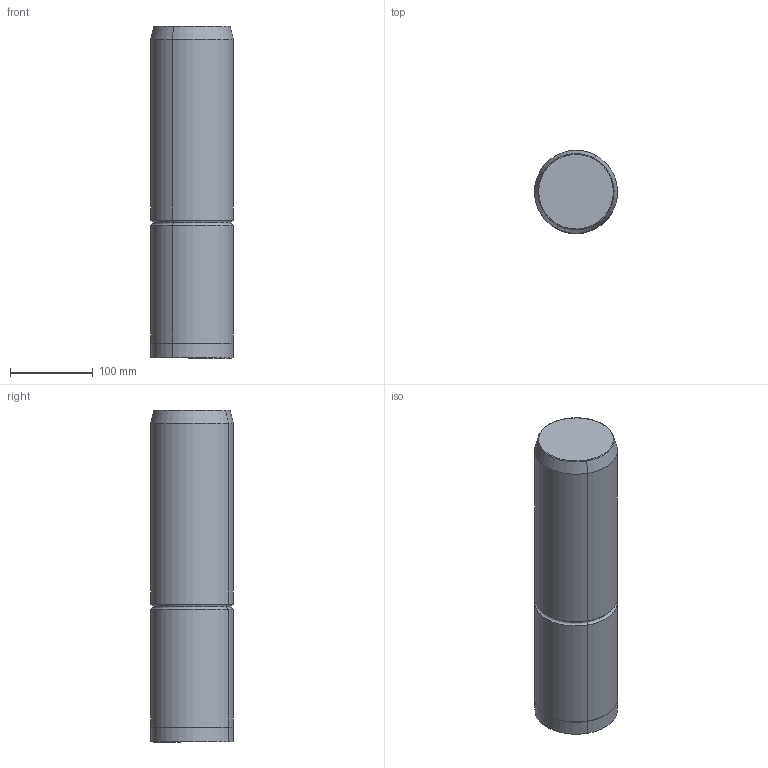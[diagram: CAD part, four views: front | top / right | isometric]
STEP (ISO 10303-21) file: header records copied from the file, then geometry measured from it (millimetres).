
FILE_DESCRIPTION(('CATIA V5 STEP Exchange'),'2;1');
FILE_NAME('C:\Users\Utente\Desktop\IO LAVORO\3D X SITO CF\X SITO\M104\M104-100x400.stp','2020-12-26T21:16:06+00:00',('none'),('none'),'CATIA Version 5 Release 20 GA (IN-10)','CATIA V5 STEP AP203','none');
FILE_SCHEMA(('CONFIG_CONTROL_DESIGN'));
Length unit declared in the file: millimetre
Products named in the file (1): M104-100x400
Bounding box: 99.97 x 99.97 x 400 mm (x, y, z)
Volume: 3123662.6 mm3; surface area: 140906.2 mm2
Topology: 1 solids, 1 shells, 17 faces, 32 edges, 18 vertices
Faces by surface type: cylinder 6, torus 6, plane 3, cone 2
Entity records: 438 total; most frequent: CARTESIAN_POINT 66, ORIENTED_EDGE 64, DIRECTION 62, AXIS2_PLACEMENT_3D 40, EDGE_CURVE 32, CIRCLE 24, EDGE_LOOP 18, VERTEX_POINT 18
